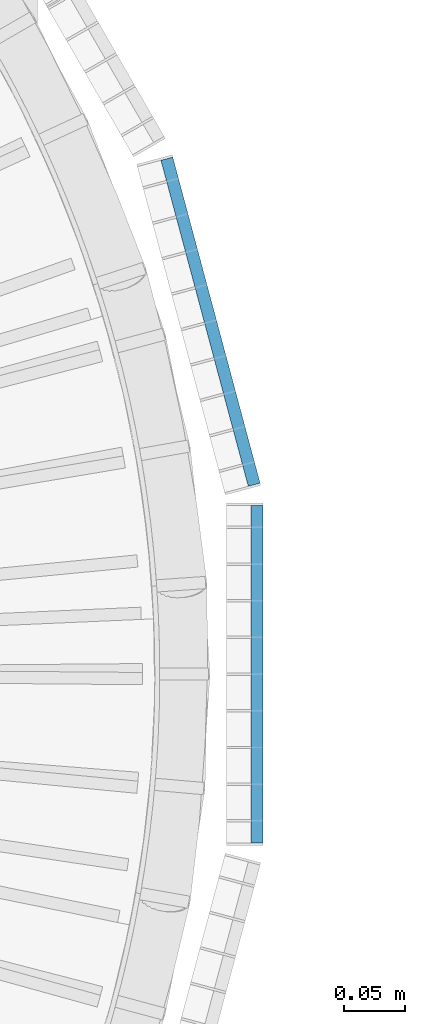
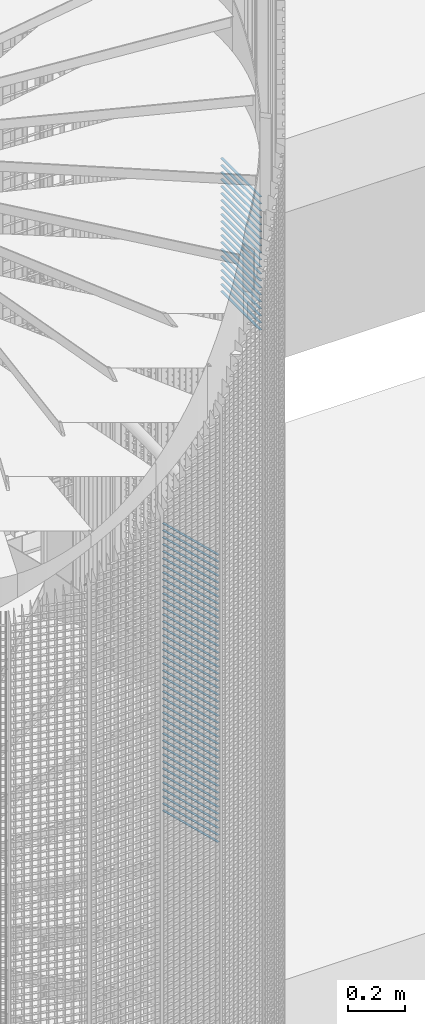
# One storey, part 277 of 1148: 62 beams, 2 elements without a shape of their own.
"""IFC2X3 building model written with IfcOpenShell, lengths in millimetres."""

from ifc_helpers import new_model, si_unit, frame, origin_with_axes, origin_2d_with_axis, place, context, subcontext, project, spatial, rectangle, extrude, material, type_object, element, aggregate, save


model = new_model("IFC2X3")

# Units and contexts
model_context = context("Model", 3, precision=1e-05, world=origin_with_axes())
body_context = subcontext(model_context, "Body", "Model", "MODEL_VIEW")
ifc_project = project(units=[si_unit("LENGTHUNIT", "METRE", prefix="MILLI"), si_unit("AREAUNIT", "SQUARE_METRE"), si_unit("VOLUMEUNIT", "CUBIC_METRE"), si_unit("MASSUNIT", "GRAM", prefix="KILO"), si_unit("TIMEUNIT", "SECOND"), si_unit("PLANEANGLEUNIT", "RADIAN"), si_unit("SOLIDANGLEUNIT", "STERADIAN"), si_unit("THERMODYNAMICTEMPERATUREUNIT", "DEGREE_CELSIUS"), si_unit("LUMINOUSINTENSITYUNIT", "LUMEN")], contexts=[model_context])

# Site, building, storey
site_placement = place(None, origin_with_axes())
site = spatial("IfcSite", under=ifc_project, at=site_placement, Name="Undefined", CompositionType="ELEMENT")
building_placement = place(site_placement, origin_with_axes())
building = spatial("IfcBuilding", under=site, at=building_placement, Name="Undefined", CompositionType="ELEMENT")
storey_placement = place(building_placement, origin_with_axes())
storey = spatial("IfcBuildingStorey", under=building, at=storey_placement, Name="Undefined", CompositionType="ELEMENT", Elevation=0.0)

# Assembly, beams
assembly_1_placement = place(storey_placement, origin_with_axes())
assembly_1 = element("IfcElementAssembly", 1, at=assembly_1_placement, inside=storey, Name="BORDURE", AssemblyPlace="NOTDEFINED", PredefinedType="NOTDEFINED")
ifc_material = material(Name="STEEL/S235JR")
beam_type = type_object("IfcBeamType", Name="PL2*10", PredefinedType="NOTDEFINED")
beam_1_placement = place(assembly_1_placement, frame((1111.25508286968, 154.895926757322, 10260.0), z_axis=(0.965925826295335, 0.258819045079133, 0.0), x_axis=(-0.258819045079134, 0.965925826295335, 0.0)))
beam_1 = element("IfcBeam", 2, at=beam_1_placement, type_object=beam_type, material=ifc_material, Name="ENTRETOISE", context=body_context, shape_type="SweptSolid", body=[
    extrude(rectangle(XDim=2.0, YDim=10.0, at=origin_2d_with_axis()), frame((275.999999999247, 9.09494701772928e-13, 1.53210777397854e-14), z_axis=(-1.0, 0.0, 0.0), x_axis=(0.0, -1.0, 0.0)), (0.0, 0.0, 1.0), 276.0),
])
beam_2_placement = place(assembly_1_placement, frame((1111.25508286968, 154.895926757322, 10230.0), z_axis=(0.965925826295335, 0.258819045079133, 0.0), x_axis=(-0.258819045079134, 0.965925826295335, 0.0)))
beam_2 = element("IfcBeam", 3, at=beam_2_placement, type_object=beam_type, material=ifc_material, Name="ENTRETOISE", context=body_context, shape_type="SweptSolid", body=[
    extrude(rectangle(XDim=2.0, YDim=10.0, at=origin_2d_with_axis()), frame((275.999999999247, 9.09494701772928e-13, 1.53210777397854e-14), z_axis=(-1.0, 0.0, 0.0), x_axis=(0.0, -1.0, 0.0)), (0.0, 0.0, 1.0), 276.0),
])
beam_3_placement = place(assembly_1_placement, frame((1111.25508286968, 154.895926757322, 10200.0), z_axis=(0.965925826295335, 0.258819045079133, 0.0), x_axis=(-0.258819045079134, 0.965925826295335, 0.0)))
beam_3 = element("IfcBeam", 4, at=beam_3_placement, type_object=beam_type, material=ifc_material, Name="ENTRETOISE", context=body_context, shape_type="SweptSolid", body=[
    extrude(rectangle(XDim=2.0, YDim=10.0, at=origin_2d_with_axis()), frame((275.999999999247, 9.09494701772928e-13, 1.53210777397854e-14), z_axis=(-1.0, 0.0, 0.0), x_axis=(0.0, -1.0, 0.0)), (0.0, 0.0, 1.0), 276.0),
])
beam_4_placement = place(assembly_1_placement, frame((1111.25508286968, 154.895926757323, 10170.0), z_axis=(0.965925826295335, 0.258819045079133, 0.0), x_axis=(-0.258819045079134, 0.965925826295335, 0.0)))
beam_4 = element("IfcBeam", 5, at=beam_4_placement, type_object=beam_type, material=ifc_material, Name="ENTRETOISE", context=body_context, shape_type="SweptSolid", body=[
    extrude(rectangle(XDim=2.0, YDim=10.0, at=origin_2d_with_axis()), frame((275.999999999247, 9.09494701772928e-13, 1.53210777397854e-14), z_axis=(-1.0, 0.0, 0.0), x_axis=(0.0, -1.0, 0.0)), (0.0, 0.0, 1.0), 276.0),
])
beam_5_placement = place(assembly_1_placement, frame((1111.25508286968, 154.895926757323, 10140.0), z_axis=(0.965925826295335, 0.258819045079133, 0.0), x_axis=(-0.258819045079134, 0.965925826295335, 0.0)))
beam_5 = element("IfcBeam", 6, at=beam_5_placement, type_object=beam_type, material=ifc_material, Name="ENTRETOISE", context=body_context, shape_type="SweptSolid", body=[
    extrude(rectangle(XDim=2.0, YDim=10.0, at=origin_2d_with_axis()), frame((275.999999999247, 9.09494701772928e-13, 1.53210777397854e-14), z_axis=(-1.0, 0.0, 0.0), x_axis=(0.0, -1.0, 0.0)), (0.0, 0.0, 1.0), 276.0),
])
beam_6_placement = place(assembly_1_placement, frame((1111.25508286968, 154.895926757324, 9720.0), z_axis=(0.965925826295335, 0.258819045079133, 0.0), x_axis=(-0.258819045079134, 0.965925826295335, 0.0)))
beam_6 = element("IfcBeam", 7, at=beam_6_placement, type_object=beam_type, material=ifc_material, Name="ENTRETOISE", context=body_context, shape_type="SweptSolid", body=[
    extrude(rectangle(XDim=2.0, YDim=10.0, at=origin_2d_with_axis()), frame((275.999999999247, 9.09494701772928e-13, 1.53210777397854e-14), z_axis=(-1.0, 0.0, 0.0), x_axis=(0.0, -1.0, 0.0)), (0.0, 0.0, 1.0), 276.0),
])
beam_7_placement = place(assembly_1_placement, frame((1111.25508286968, 154.895926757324, 9690.0), z_axis=(0.965925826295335, 0.258819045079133, 0.0), x_axis=(-0.258819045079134, 0.965925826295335, 0.0)))
beam_7 = element("IfcBeam", 8, at=beam_7_placement, type_object=beam_type, material=ifc_material, Name="ENTRETOISE", context=body_context, shape_type="SweptSolid", body=[
    extrude(rectangle(XDim=2.0, YDim=10.0, at=origin_2d_with_axis()), frame((275.999999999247, 9.09494701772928e-13, 1.53210777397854e-14), z_axis=(-1.0, 0.0, 0.0), x_axis=(0.0, -1.0, 0.0)), (0.0, 0.0, 1.0), 276.0),
])
beam_8_placement = place(assembly_1_placement, frame((1111.25508286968, 154.895926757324, 9750.0), z_axis=(0.965925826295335, 0.258819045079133, 0.0), x_axis=(-0.258819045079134, 0.965925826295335, 0.0)))
beam_8 = element("IfcBeam", 9, at=beam_8_placement, type_object=beam_type, material=ifc_material, Name="ENTRETOISE", context=body_context, shape_type="SweptSolid", body=[
    extrude(rectangle(XDim=2.0, YDim=10.0, at=origin_2d_with_axis()), frame((275.999999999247, 9.09494701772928e-13, 1.53210777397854e-14), z_axis=(-1.0, 0.0, 0.0), x_axis=(0.0, -1.0, 0.0)), (0.0, 0.0, 1.0), 276.0),
])
beam_9_placement = place(assembly_1_placement, frame((1111.25508286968, 154.895926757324, 9660.0), z_axis=(0.965925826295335, 0.258819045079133, 0.0), x_axis=(-0.258819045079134, 0.965925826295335, 0.0)))
beam_9 = element("IfcBeam", 10, at=beam_9_placement, type_object=beam_type, material=ifc_material, Name="ENTRETOISE", context=body_context, shape_type="SweptSolid", body=[
    extrude(rectangle(XDim=2.0, YDim=10.0, at=origin_2d_with_axis()), frame((275.999999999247, 9.09494701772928e-13, 1.53210777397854e-14), z_axis=(-1.0, 0.0, 0.0), x_axis=(0.0, -1.0, 0.0)), (0.0, 0.0, 1.0), 276.0),
])
beam_10_placement = place(assembly_1_placement, frame((1111.25508286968, 154.895926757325, 9630.0), z_axis=(0.965925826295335, 0.258819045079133, 0.0), x_axis=(-0.258819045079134, 0.965925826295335, 0.0)))
beam_10 = element("IfcBeam", 11, at=beam_10_placement, type_object=beam_type, material=ifc_material, Name="ENTRETOISE", context=body_context, shape_type="SweptSolid", body=[
    extrude(rectangle(XDim=2.0, YDim=10.0, at=origin_2d_with_axis()), frame((275.999999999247, 9.09494701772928e-13, 1.53210777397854e-14), z_axis=(-1.0, 0.0, 0.0), x_axis=(0.0, -1.0, 0.0)), (0.0, 0.0, 1.0), 276.0),
])
beam_11_placement = place(assembly_1_placement, frame((1111.25508286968, 154.895926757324, 9780.0), z_axis=(0.965925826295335, 0.258819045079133, 0.0), x_axis=(-0.258819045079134, 0.965925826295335, 0.0)))
beam_11 = element("IfcBeam", 12, at=beam_11_placement, type_object=beam_type, material=ifc_material, Name="ENTRETOISE", context=body_context, shape_type="SweptSolid", body=[
    extrude(rectangle(XDim=2.0, YDim=10.0, at=origin_2d_with_axis()), frame((275.999999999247, 9.09494701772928e-13, 1.53210777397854e-14), z_axis=(-1.0, 0.0, 0.0), x_axis=(0.0, -1.0, 0.0)), (0.0, 0.0, 1.0), 276.0),
])
beam_12_placement = place(assembly_1_placement, frame((1111.25508286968, 154.895926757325, 9600.0), z_axis=(0.965925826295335, 0.258819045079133, 0.0), x_axis=(-0.258819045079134, 0.965925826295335, 0.0)))
beam_12 = element("IfcBeam", 13, at=beam_12_placement, type_object=beam_type, material=ifc_material, Name="ENTRETOISE", context=body_context, shape_type="SweptSolid", body=[
    extrude(rectangle(XDim=2.0, YDim=10.0, at=origin_2d_with_axis()), frame((275.999999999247, 9.09494701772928e-13, 1.53210777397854e-14), z_axis=(-1.0, 0.0, 0.0), x_axis=(0.0, -1.0, 0.0)), (0.0, 0.0, 1.0), 276.0),
])
beam_13_placement = place(assembly_1_placement, frame((1111.25508286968, 154.895926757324, 9810.0), z_axis=(0.965925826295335, 0.258819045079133, 0.0), x_axis=(-0.258819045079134, 0.965925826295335, 0.0)))
beam_13 = element("IfcBeam", 14, at=beam_13_placement, type_object=beam_type, material=ifc_material, Name="ENTRETOISE", context=body_context, shape_type="SweptSolid", body=[
    extrude(rectangle(XDim=2.0, YDim=10.0, at=origin_2d_with_axis()), frame((275.999999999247, 9.09494701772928e-13, 1.53210777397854e-14), z_axis=(-1.0, 0.0, 0.0), x_axis=(0.0, -1.0, 0.0)), (0.0, 0.0, 1.0), 276.0),
])
beam_14_placement = place(assembly_1_placement, frame((1111.25508286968, 154.895926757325, 9570.0), z_axis=(0.965925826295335, 0.258819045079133, 0.0), x_axis=(-0.258819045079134, 0.965925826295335, 0.0)))
beam_14 = element("IfcBeam", 15, at=beam_14_placement, type_object=beam_type, material=ifc_material, Name="ENTRETOISE", context=body_context, shape_type="SweptSolid", body=[
    extrude(rectangle(XDim=2.0, YDim=10.0, at=origin_2d_with_axis()), frame((275.999999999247, 9.09494701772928e-13, 1.53210777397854e-14), z_axis=(-1.0, 0.0, 0.0), x_axis=(0.0, -1.0, 0.0)), (0.0, 0.0, 1.0), 276.0),
])
beam_15_placement = place(assembly_1_placement, frame((1111.25508286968, 154.895926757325, 9540.0), z_axis=(0.965925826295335, 0.258819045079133, 0.0), x_axis=(-0.258819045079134, 0.965925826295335, 0.0)))
beam_15 = element("IfcBeam", 16, at=beam_15_placement, type_object=beam_type, material=ifc_material, Name="ENTRETOISE", context=body_context, shape_type="SweptSolid", body=[
    extrude(rectangle(XDim=2.0, YDim=10.0, at=origin_2d_with_axis()), frame((275.999999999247, 9.09494701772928e-13, 1.53210777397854e-14), z_axis=(-1.0, 0.0, 0.0), x_axis=(0.0, -1.0, 0.0)), (0.0, 0.0, 1.0), 276.0),
])
beam_16_placement = place(assembly_1_placement, frame((1111.25508286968, 154.895926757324, 9840.0), z_axis=(0.965925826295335, 0.258819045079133, 0.0), x_axis=(-0.258819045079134, 0.965925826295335, 0.0)))
beam_16 = element("IfcBeam", 17, at=beam_16_placement, type_object=beam_type, material=ifc_material, Name="ENTRETOISE", context=body_context, shape_type="SweptSolid", body=[
    extrude(rectangle(XDim=2.0, YDim=10.0, at=origin_2d_with_axis()), frame((275.999999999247, 9.09494701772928e-13, 1.53210777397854e-14), z_axis=(-1.0, 0.0, 0.0), x_axis=(0.0, -1.0, 0.0)), (0.0, 0.0, 1.0), 276.0),
])
beam_17_placement = place(assembly_1_placement, frame((1111.25508286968, 154.895926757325, 9510.0), z_axis=(0.965925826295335, 0.258819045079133, 0.0), x_axis=(-0.258819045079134, 0.965925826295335, 0.0)))
beam_17 = element("IfcBeam", 18, at=beam_17_placement, type_object=beam_type, material=ifc_material, Name="ENTRETOISE", context=body_context, shape_type="SweptSolid", body=[
    extrude(rectangle(XDim=2.0, YDim=10.0, at=origin_2d_with_axis()), frame((275.999999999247, 9.09494701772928e-13, 1.53210777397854e-14), z_axis=(-1.0, 0.0, 0.0), x_axis=(0.0, -1.0, 0.0)), (0.0, 0.0, 1.0), 276.0),
])
beam_18_placement = place(assembly_1_placement, frame((1111.25508286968, 154.895926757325, 9480.0), z_axis=(0.965925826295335, 0.258819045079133, 0.0), x_axis=(-0.258819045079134, 0.965925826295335, 0.0)))
beam_18 = element("IfcBeam", 19, at=beam_18_placement, type_object=beam_type, material=ifc_material, Name="ENTRETOISE", context=body_context, shape_type="SweptSolid", body=[
    extrude(rectangle(XDim=2.0, YDim=10.0, at=origin_2d_with_axis()), frame((275.999999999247, 9.09494701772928e-13, 1.53210777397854e-14), z_axis=(-1.0, 0.0, 0.0), x_axis=(0.0, -1.0, 0.0)), (0.0, 0.0, 1.0), 276.0),
])
beam_19_placement = place(assembly_1_placement, frame((1111.25508286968, 154.895926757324, 9870.0), z_axis=(0.965925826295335, 0.258819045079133, 0.0), x_axis=(-0.258819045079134, 0.965925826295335, 0.0)))
beam_19 = element("IfcBeam", 20, at=beam_19_placement, type_object=beam_type, material=ifc_material, Name="ENTRETOISE", context=body_context, shape_type="SweptSolid", body=[
    extrude(rectangle(XDim=2.0, YDim=10.0, at=origin_2d_with_axis()), frame((275.999999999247, 9.09494701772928e-13, 1.53210777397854e-14), z_axis=(-1.0, 0.0, 0.0), x_axis=(0.0, -1.0, 0.0)), (0.0, 0.0, 1.0), 276.0),
])
beam_20_placement = place(assembly_1_placement, frame((1111.25508286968, 154.895926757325, 9450.0), z_axis=(0.965925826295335, 0.258819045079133, 0.0), x_axis=(-0.258819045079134, 0.965925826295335, 0.0)))
beam_20 = element("IfcBeam", 21, at=beam_20_placement, type_object=beam_type, material=ifc_material, Name="ENTRETOISE", context=body_context, shape_type="SweptSolid", body=[
    extrude(rectangle(XDim=2.0, YDim=10.0, at=origin_2d_with_axis()), frame((275.999999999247, 9.09494701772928e-13, 1.53210777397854e-14), z_axis=(-1.0, 0.0, 0.0), x_axis=(0.0, -1.0, 0.0)), (0.0, 0.0, 1.0), 276.0),
])
beam_21_placement = place(assembly_1_placement, frame((1111.25508286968, 154.895926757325, 9420.0), z_axis=(0.965925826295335, 0.258819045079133, 0.0), x_axis=(-0.258819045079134, 0.965925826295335, 0.0)))
beam_21 = element("IfcBeam", 22, at=beam_21_placement, type_object=beam_type, material=ifc_material, Name="ENTRETOISE", context=body_context, shape_type="SweptSolid", body=[
    extrude(rectangle(XDim=2.0, YDim=10.0, at=origin_2d_with_axis()), frame((275.999999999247, 9.09494701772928e-13, 1.53210777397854e-14), z_axis=(-1.0, 0.0, 0.0), x_axis=(0.0, -1.0, 0.0)), (0.0, 0.0, 1.0), 276.0),
])
beam_22_placement = place(assembly_1_placement, frame((1111.25508286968, 154.895926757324, 9900.0), z_axis=(0.965925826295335, 0.258819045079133, 0.0), x_axis=(-0.258819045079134, 0.965925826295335, 0.0)))
beam_22 = element("IfcBeam", 23, at=beam_22_placement, type_object=beam_type, material=ifc_material, Name="ENTRETOISE", context=body_context, shape_type="SweptSolid", body=[
    extrude(rectangle(XDim=2.0, YDim=10.0, at=origin_2d_with_axis()), frame((275.999999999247, 9.09494701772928e-13, 1.53210777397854e-14), z_axis=(-1.0, 0.0, 0.0), x_axis=(0.0, -1.0, 0.0)), (0.0, 0.0, 1.0), 276.0),
])
beam_23_placement = place(assembly_1_placement, frame((1111.25508286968, 154.895926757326, 9390.0), z_axis=(0.965925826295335, 0.258819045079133, 0.0), x_axis=(-0.258819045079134, 0.965925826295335, 0.0)))
beam_23 = element("IfcBeam", 24, at=beam_23_placement, type_object=beam_type, material=ifc_material, Name="ENTRETOISE", context=body_context, shape_type="SweptSolid", body=[
    extrude(rectangle(XDim=2.0, YDim=10.0, at=origin_2d_with_axis()), frame((275.999999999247, 9.09494701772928e-13, 1.53210777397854e-14), z_axis=(-1.0, 0.0, 0.0), x_axis=(0.0, -1.0, 0.0)), (0.0, 0.0, 1.0), 276.0),
])
beam_24_placement = place(assembly_1_placement, frame((1111.25508286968, 154.895926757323, 9930.0), z_axis=(0.965925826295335, 0.258819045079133, 0.0), x_axis=(-0.258819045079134, 0.965925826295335, 0.0)))
beam_24 = element("IfcBeam", 25, at=beam_24_placement, type_object=beam_type, material=ifc_material, Name="ENTRETOISE", context=body_context, shape_type="SweptSolid", body=[
    extrude(rectangle(XDim=2.0, YDim=10.0, at=origin_2d_with_axis()), frame((275.999999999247, 9.09494701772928e-13, 1.53210777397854e-14), z_axis=(-1.0, 0.0, 0.0), x_axis=(0.0, -1.0, 0.0)), (0.0, 0.0, 1.0), 276.0),
])
beam_25_placement = place(assembly_1_placement, frame((1111.25508286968, 154.895926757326, 9360.0), z_axis=(0.965925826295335, 0.258819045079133, 0.0), x_axis=(-0.258819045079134, 0.965925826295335, 0.0)))
beam_25 = element("IfcBeam", 26, at=beam_25_placement, type_object=beam_type, material=ifc_material, Name="ENTRETOISE", context=body_context, shape_type="SweptSolid", body=[
    extrude(rectangle(XDim=2.0, YDim=10.0, at=origin_2d_with_axis()), frame((275.999999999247, 9.09494701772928e-13, 1.53210777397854e-14), z_axis=(-1.0, 0.0, 0.0), x_axis=(0.0, -1.0, 0.0)), (0.0, 0.0, 1.0), 276.0),
])
beam_26_placement = place(assembly_1_placement, frame((1111.25508286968, 154.895926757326, 9330.0), z_axis=(0.965925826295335, 0.258819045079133, 0.0), x_axis=(-0.258819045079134, 0.965925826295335, 0.0)))
beam_26 = element("IfcBeam", 27, at=beam_26_placement, type_object=beam_type, material=ifc_material, Name="ENTRETOISE", context=body_context, shape_type="SweptSolid", body=[
    extrude(rectangle(XDim=2.0, YDim=10.0, at=origin_2d_with_axis()), frame((275.999999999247, 9.09494701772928e-13, 1.53210777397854e-14), z_axis=(-1.0, 0.0, 0.0), x_axis=(0.0, -1.0, 0.0)), (0.0, 0.0, 1.0), 276.0),
])
beam_27_placement = place(assembly_1_placement, frame((1111.25508286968, 154.895926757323, 9960.0), z_axis=(0.965925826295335, 0.258819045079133, 0.0), x_axis=(-0.258819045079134, 0.965925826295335, 0.0)))
beam_27 = element("IfcBeam", 28, at=beam_27_placement, type_object=beam_type, material=ifc_material, Name="ENTRETOISE", context=body_context, shape_type="SweptSolid", body=[
    extrude(rectangle(XDim=2.0, YDim=10.0, at=origin_2d_with_axis()), frame((275.999999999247, 9.09494701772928e-13, 1.53210777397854e-14), z_axis=(-1.0, 0.0, 0.0), x_axis=(0.0, -1.0, 0.0)), (0.0, 0.0, 1.0), 276.0),
])
beam_28_placement = place(assembly_1_placement, frame((1111.25508286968, 154.895926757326, 9300.0), z_axis=(0.965925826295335, 0.258819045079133, 0.0), x_axis=(-0.258819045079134, 0.965925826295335, 0.0)))
beam_28 = element("IfcBeam", 29, at=beam_28_placement, type_object=beam_type, material=ifc_material, Name="ENTRETOISE", context=body_context, shape_type="SweptSolid", body=[
    extrude(rectangle(XDim=2.0, YDim=10.0, at=origin_2d_with_axis()), frame((275.999999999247, 9.09494701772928e-13, 1.53210777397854e-14), z_axis=(-1.0, 0.0, 0.0), x_axis=(0.0, -1.0, 0.0)), (0.0, 0.0, 1.0), 276.0),
])
beam_29_placement = place(assembly_1_placement, frame((1111.25508286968, 154.895926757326, 9270.0), z_axis=(0.965925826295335, 0.258819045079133, 0.0), x_axis=(-0.258819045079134, 0.965925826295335, 0.0)))
beam_29 = element("IfcBeam", 30, at=beam_29_placement, type_object=beam_type, material=ifc_material, Name="ENTRETOISE", context=body_context, shape_type="SweptSolid", body=[
    extrude(rectangle(XDim=2.0, YDim=10.0, at=origin_2d_with_axis()), frame((275.999999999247, 9.09494701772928e-13, 1.53210777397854e-14), z_axis=(-1.0, 0.0, 0.0), x_axis=(0.0, -1.0, 0.0)), (0.0, 0.0, 1.0), 276.0),
])
beam_30_placement = place(assembly_1_placement, frame((1111.25508286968, 154.895926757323, 9990.0), z_axis=(0.965925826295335, 0.258819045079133, 0.0), x_axis=(-0.258819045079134, 0.965925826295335, 0.0)))
beam_30 = element("IfcBeam", 31, at=beam_30_placement, type_object=beam_type, material=ifc_material, Name="ENTRETOISE", context=body_context, shape_type="SweptSolid", body=[
    extrude(rectangle(XDim=2.0, YDim=10.0, at=origin_2d_with_axis()), frame((275.999999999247, 9.09494701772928e-13, 1.53210777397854e-14), z_axis=(-1.0, 0.0, 0.0), x_axis=(0.0, -1.0, 0.0)), (0.0, 0.0, 1.0), 276.0),
])
beam_31_placement = place(assembly_1_placement, frame((1111.25508286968, 154.895926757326, 9240.0), z_axis=(0.965925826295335, 0.258819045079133, 0.0), x_axis=(-0.258819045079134, 0.965925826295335, 0.0)))
beam_31 = element("IfcBeam", 32, at=beam_31_placement, type_object=beam_type, material=ifc_material, Name="ENTRETOISE", context=body_context, shape_type="SweptSolid", body=[
    extrude(rectangle(XDim=2.0, YDim=10.0, at=origin_2d_with_axis()), frame((275.999999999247, 9.09494701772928e-13, 1.53210777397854e-14), z_axis=(-1.0, 0.0, 0.0), x_axis=(0.0, -1.0, 0.0)), (0.0, 0.0, 1.0), 276.0),
])
beam_32_placement = place(assembly_1_placement, frame((1111.25508286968, 154.895926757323, 10020.0), z_axis=(0.965925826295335, 0.258819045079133, 0.0), x_axis=(-0.258819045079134, 0.965925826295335, 0.0)))
beam_32 = element("IfcBeam", 33, at=beam_32_placement, type_object=beam_type, material=ifc_material, Name="ENTRETOISE", context=body_context, shape_type="SweptSolid", body=[
    extrude(rectangle(XDim=2.0, YDim=10.0, at=origin_2d_with_axis()), frame((275.999999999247, 9.09494701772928e-13, 1.53210777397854e-14), z_axis=(-1.0, 0.0, 0.0), x_axis=(0.0, -1.0, 0.0)), (0.0, 0.0, 1.0), 276.0),
])
beam_33_placement = place(assembly_1_placement, frame((1111.25508286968, 154.895926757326, 9210.0), z_axis=(0.965925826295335, 0.258819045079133, 0.0), x_axis=(-0.258819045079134, 0.965925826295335, 0.0)))
beam_33 = element("IfcBeam", 34, at=beam_33_placement, type_object=beam_type, material=ifc_material, Name="ENTRETOISE", context=body_context, shape_type="SweptSolid", body=[
    extrude(rectangle(XDim=2.0, YDim=10.0, at=origin_2d_with_axis()), frame((275.999999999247, 9.09494701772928e-13, 1.53210777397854e-14), z_axis=(-1.0, 0.0, 0.0), x_axis=(0.0, -1.0, 0.0)), (0.0, 0.0, 1.0), 276.0),
])
beam_34_placement = place(assembly_1_placement, frame((1111.25508286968, 154.895926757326, 9180.0), z_axis=(0.965925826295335, 0.258819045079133, 0.0), x_axis=(-0.258819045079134, 0.965925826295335, 0.0)))
beam_34 = element("IfcBeam", 35, at=beam_34_placement, type_object=beam_type, material=ifc_material, Name="ENTRETOISE", context=body_context, shape_type="SweptSolid", body=[
    extrude(rectangle(XDim=2.0, YDim=10.0, at=origin_2d_with_axis()), frame((275.999999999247, 9.09494701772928e-13, 1.53210777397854e-14), z_axis=(-1.0, 0.0, 0.0), x_axis=(0.0, -1.0, 0.0)), (0.0, 0.0, 1.0), 276.0),
])
beam_35_placement = place(assembly_1_placement, frame((1111.25508286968, 154.895926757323, 10050.0), z_axis=(0.965925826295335, 0.258819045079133, 0.0), x_axis=(-0.258819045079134, 0.965925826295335, 0.0)))
beam_35 = element("IfcBeam", 36, at=beam_35_placement, type_object=beam_type, material=ifc_material, Name="ENTRETOISE", context=body_context, shape_type="SweptSolid", body=[
    extrude(rectangle(XDim=2.0, YDim=10.0, at=origin_2d_with_axis()), frame((275.999999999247, 9.09494701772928e-13, 1.53210777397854e-14), z_axis=(-1.0, 0.0, 0.0), x_axis=(0.0, -1.0, 0.0)), (0.0, 0.0, 1.0), 276.0),
])
beam_36_placement = place(assembly_1_placement, frame((1111.25508286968, 154.895926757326, 9150.0), z_axis=(0.965925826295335, 0.258819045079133, 0.0), x_axis=(-0.258819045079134, 0.965925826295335, 0.0)))
beam_36 = element("IfcBeam", 37, at=beam_36_placement, type_object=beam_type, material=ifc_material, Name="ENTRETOISE", context=body_context, shape_type="SweptSolid", body=[
    extrude(rectangle(XDim=2.0, YDim=10.0, at=origin_2d_with_axis()), frame((275.999999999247, 9.09494701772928e-13, 1.53210777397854e-14), z_axis=(-1.0, 0.0, 0.0), x_axis=(0.0, -1.0, 0.0)), (0.0, 0.0, 1.0), 276.0),
])
beam_37_placement = place(assembly_1_placement, frame((1111.25508286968, 154.895926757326, 9120.0), z_axis=(0.965925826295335, 0.258819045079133, 0.0), x_axis=(-0.258819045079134, 0.965925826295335, 0.0)))
beam_37 = element("IfcBeam", 38, at=beam_37_placement, type_object=beam_type, material=ifc_material, Name="ENTRETOISE", context=body_context, shape_type="SweptSolid", body=[
    extrude(rectangle(XDim=2.0, YDim=10.0, at=origin_2d_with_axis()), frame((275.999999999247, 9.09494701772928e-13, 1.53210777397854e-14), z_axis=(-1.0, 0.0, 0.0), x_axis=(0.0, -1.0, 0.0)), (0.0, 0.0, 1.0), 276.0),
])
beam_38_placement = place(assembly_1_placement, frame((1111.25508286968, 154.895926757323, 10080.0), z_axis=(0.965925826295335, 0.258819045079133, 0.0), x_axis=(-0.258819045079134, 0.965925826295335, 0.0)))
beam_38 = element("IfcBeam", 39, at=beam_38_placement, type_object=beam_type, material=ifc_material, Name="ENTRETOISE", context=body_context, shape_type="SweptSolid", body=[
    extrude(rectangle(XDim=2.0, YDim=10.0, at=origin_2d_with_axis()), frame((275.999999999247, 9.09494701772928e-13, 1.53210777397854e-14), z_axis=(-1.0, 0.0, 0.0), x_axis=(0.0, -1.0, 0.0)), (0.0, 0.0, 1.0), 276.0),
])
beam_39_placement = place(assembly_1_placement, frame((1111.25508286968, 154.895926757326, 9090.0), z_axis=(0.965925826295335, 0.258819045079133, 0.0), x_axis=(-0.258819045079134, 0.965925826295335, 0.0)))
beam_39 = element("IfcBeam", 40, at=beam_39_placement, type_object=beam_type, material=ifc_material, Name="ENTRETOISE", context=body_context, shape_type="SweptSolid", body=[
    extrude(rectangle(XDim=2.0, YDim=10.0, at=origin_2d_with_axis()), frame((275.999999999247, 9.09494701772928e-13, 1.53210777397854e-14), z_axis=(-1.0, 0.0, 0.0), x_axis=(0.0, -1.0, 0.0)), (0.0, 0.0, 1.0), 276.0),
])
beam_40_placement = place(assembly_1_placement, frame((1111.25508286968, 154.895926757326, 9060.0), z_axis=(0.965925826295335, 0.258819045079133, 0.0), x_axis=(-0.258819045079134, 0.965925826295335, 0.0)))
beam_40 = element("IfcBeam", 41, at=beam_40_placement, type_object=beam_type, material=ifc_material, Name="ENTRETOISE", context=body_context, shape_type="SweptSolid", body=[
    extrude(rectangle(XDim=2.0, YDim=10.0, at=origin_2d_with_axis()), frame((275.999999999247, 9.09494701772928e-13, 1.53210777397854e-14), z_axis=(-1.0, 0.0, 0.0), x_axis=(0.0, -1.0, 0.0)), (0.0, 0.0, 1.0), 276.0),
])
beam_41_placement = place(assembly_1_placement, frame((1111.25508286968, 154.895926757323, 10110.0), z_axis=(0.965925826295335, 0.258819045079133, 0.0), x_axis=(-0.258819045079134, 0.965925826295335, 0.0)))
beam_41 = element("IfcBeam", 42, at=beam_41_placement, type_object=beam_type, material=ifc_material, Name="ENTRETOISE", context=body_context, shape_type="SweptSolid", body=[
    extrude(rectangle(XDim=2.0, YDim=10.0, at=origin_2d_with_axis()), frame((275.999999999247, 9.09494701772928e-13, 1.53210777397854e-14), z_axis=(-1.0, 0.0, 0.0), x_axis=(0.0, -1.0, 0.0)), (0.0, 0.0, 1.0), 276.0),
])
beam_42_placement = place(assembly_1_placement, frame((1111.25508286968, 154.895926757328, 9030.0), z_axis=(0.965925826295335, 0.258819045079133, 0.0), x_axis=(-0.258819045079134, 0.965925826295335, 0.0)))
beam_42 = element("IfcBeam", 43, at=beam_42_placement, type_object=beam_type, material=ifc_material, Name="ENTRETOISE", context=body_context, shape_type="SweptSolid", body=[
    extrude(rectangle(XDim=2.0, YDim=10.0, at=origin_2d_with_axis()), frame((275.999999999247, 9.09494701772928e-13, 1.53210777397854e-14), z_axis=(-1.0, 0.0, 0.0), x_axis=(0.0, -1.0, 0.0)), (0.0, 0.0, 1.0), 276.0),
])
aggregate(assembly_1, [beam_1, beam_2, beam_3, beam_4, beam_5, beam_6, beam_7, beam_8, beam_9, beam_10, beam_11, beam_12, beam_13, beam_14, beam_15, beam_16, beam_17, beam_18, beam_19, beam_20, beam_21, beam_22, beam_23, beam_24, beam_25, beam_26, beam_27, beam_28, beam_29, beam_30, beam_31, beam_32, beam_33, beam_34, beam_35, beam_36, beam_37, beam_38, beam_39, beam_40, beam_41, beam_42])

assembly_2_placement = place(storey_placement, origin_with_axes())
assembly_2 = element("IfcElementAssembly", 44, at=assembly_2_placement, inside=storey, Name="BORDURE", AssemblyPlace="NOTDEFINED", PredefinedType="NOTDEFINED")
beam_43_placement = place(assembly_2_placement, frame((1113.47999999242, -137.996003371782, 11970.0), z_axis=(1.0, 0.0, 0.0), x_axis=(0.0, 1.0, 0.0)))
beam_43 = element("IfcBeam", 45, at=beam_43_placement, type_object=beam_type, material=ifc_material, Name="ENTRETOISE", context=body_context, shape_type="SweptSolid", body=[
    extrude(rectangle(XDim=2.0, YDim=10.0, at=origin_2d_with_axis()), frame((275.999999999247, 9.09494701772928e-13, 1.53210777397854e-14), z_axis=(-1.0, 0.0, 0.0), x_axis=(0.0, -1.0, 0.0)), (0.0, 0.0, 1.0), 276.0),
])
beam_44_placement = place(assembly_2_placement, frame((1113.47999999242, -137.996003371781, 11940.0), z_axis=(1.0, 0.0, 0.0), x_axis=(0.0, 1.0, 0.0)))
beam_44 = element("IfcBeam", 46, at=beam_44_placement, type_object=beam_type, material=ifc_material, Name="ENTRETOISE", context=body_context, shape_type="SweptSolid", body=[
    extrude(rectangle(XDim=2.0, YDim=10.0, at=origin_2d_with_axis()), frame((275.999999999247, 9.09494701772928e-13, 1.53210777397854e-14), z_axis=(-1.0, 0.0, 0.0), x_axis=(0.0, -1.0, 0.0)), (0.0, 0.0, 1.0), 276.0),
])
beam_45_placement = place(assembly_2_placement, frame((1113.47999999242, -137.996003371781, 11910.0), z_axis=(1.0, 0.0, 0.0), x_axis=(0.0, 1.0, 0.0)))
beam_45 = element("IfcBeam", 47, at=beam_45_placement, type_object=beam_type, material=ifc_material, Name="ENTRETOISE", context=body_context, shape_type="SweptSolid", body=[
    extrude(rectangle(XDim=2.0, YDim=10.0, at=origin_2d_with_axis()), frame((275.999999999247, 9.09494701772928e-13, 1.53210777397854e-14), z_axis=(-1.0, 0.0, 0.0), x_axis=(0.0, -1.0, 0.0)), (0.0, 0.0, 1.0), 276.0),
])
beam_46_placement = place(assembly_2_placement, frame((1113.47999999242, -137.996003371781, 11880.0), z_axis=(1.0, 0.0, 0.0), x_axis=(0.0, 1.0, 0.0)))
beam_46 = element("IfcBeam", 48, at=beam_46_placement, type_object=beam_type, material=ifc_material, Name="ENTRETOISE", context=body_context, shape_type="SweptSolid", body=[
    extrude(rectangle(XDim=2.0, YDim=10.0, at=origin_2d_with_axis()), frame((275.999999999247, 9.09494701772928e-13, 1.53210777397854e-14), z_axis=(-1.0, 0.0, 0.0), x_axis=(0.0, -1.0, 0.0)), (0.0, 0.0, 1.0), 276.0),
])
beam_47_placement = place(assembly_2_placement, frame((1113.47999999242, -137.996003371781, 11850.0), z_axis=(1.0, 0.0, 0.0), x_axis=(0.0, 1.0, 0.0)))
beam_47 = element("IfcBeam", 49, at=beam_47_placement, type_object=beam_type, material=ifc_material, Name="ENTRETOISE", context=body_context, shape_type="SweptSolid", body=[
    extrude(rectangle(XDim=2.0, YDim=10.0, at=origin_2d_with_axis()), frame((275.999999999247, 9.09494701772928e-13, 1.53210777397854e-14), z_axis=(-1.0, 0.0, 0.0), x_axis=(0.0, -1.0, 0.0)), (0.0, 0.0, 1.0), 276.0),
])
beam_48_placement = place(assembly_2_placement, frame((1113.47999999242, -137.996003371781, 11820.0), z_axis=(1.0, 0.0, 0.0), x_axis=(0.0, 1.0, 0.0)))
beam_48 = element("IfcBeam", 50, at=beam_48_placement, type_object=beam_type, material=ifc_material, Name="ENTRETOISE", context=body_context, shape_type="SweptSolid", body=[
    extrude(rectangle(XDim=2.0, YDim=10.0, at=origin_2d_with_axis()), frame((275.999999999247, 9.09494701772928e-13, 1.53210777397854e-14), z_axis=(-1.0, 0.0, 0.0), x_axis=(0.0, -1.0, 0.0)), (0.0, 0.0, 1.0), 276.0),
])
beam_49_placement = place(assembly_2_placement, frame((1113.47999999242, -137.996003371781, 11790.0), z_axis=(1.0, 0.0, 0.0), x_axis=(0.0, 1.0, 0.0)))
beam_49 = element("IfcBeam", 51, at=beam_49_placement, type_object=beam_type, material=ifc_material, Name="ENTRETOISE", context=body_context, shape_type="SweptSolid", body=[
    extrude(rectangle(XDim=2.0, YDim=10.0, at=origin_2d_with_axis()), frame((275.999999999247, 9.09494701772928e-13, 1.53210777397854e-14), z_axis=(-1.0, 0.0, 0.0), x_axis=(0.0, -1.0, 0.0)), (0.0, 0.0, 1.0), 276.0),
])
beam_50_placement = place(assembly_2_placement, frame((1113.47999999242, -137.996003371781, 11760.0), z_axis=(1.0, 0.0, 0.0), x_axis=(0.0, 1.0, 0.0)))
beam_50 = element("IfcBeam", 52, at=beam_50_placement, type_object=beam_type, material=ifc_material, Name="ENTRETOISE", context=body_context, shape_type="SweptSolid", body=[
    extrude(rectangle(XDim=2.0, YDim=10.0, at=origin_2d_with_axis()), frame((275.999999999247, 9.09494701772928e-13, 1.53210777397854e-14), z_axis=(-1.0, 0.0, 0.0), x_axis=(0.0, -1.0, 0.0)), (0.0, 0.0, 1.0), 276.0),
])
beam_51_placement = place(assembly_2_placement, frame((1113.47999999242, -137.996003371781, 11730.0), z_axis=(1.0, 0.0, 0.0), x_axis=(0.0, 1.0, 0.0)))
beam_51 = element("IfcBeam", 53, at=beam_51_placement, type_object=beam_type, material=ifc_material, Name="ENTRETOISE", context=body_context, shape_type="SweptSolid", body=[
    extrude(rectangle(XDim=2.0, YDim=10.0, at=origin_2d_with_axis()), frame((275.999999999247, 9.09494701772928e-13, 1.53210777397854e-14), z_axis=(-1.0, 0.0, 0.0), x_axis=(0.0, -1.0, 0.0)), (0.0, 0.0, 1.0), 276.0),
])
beam_52_placement = place(assembly_2_placement, frame((1113.47999999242, -137.996003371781, 11700.0), z_axis=(1.0, 0.0, 0.0), x_axis=(0.0, 1.0, 0.0)))
beam_52 = element("IfcBeam", 54, at=beam_52_placement, type_object=beam_type, material=ifc_material, Name="ENTRETOISE", context=body_context, shape_type="SweptSolid", body=[
    extrude(rectangle(XDim=2.0, YDim=10.0, at=origin_2d_with_axis()), frame((275.999999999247, 9.09494701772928e-13, 1.53210777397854e-14), z_axis=(-1.0, 0.0, 0.0), x_axis=(0.0, -1.0, 0.0)), (0.0, 0.0, 1.0), 276.0),
])
beam_53_placement = place(assembly_2_placement, frame((1113.47999999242, -137.996003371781, 11670.0), z_axis=(1.0, 0.0, 0.0), x_axis=(0.0, 1.0, 0.0)))
beam_53 = element("IfcBeam", 55, at=beam_53_placement, type_object=beam_type, material=ifc_material, Name="ENTRETOISE", context=body_context, shape_type="SweptSolid", body=[
    extrude(rectangle(XDim=2.0, YDim=10.0, at=origin_2d_with_axis()), frame((275.999999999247, 9.09494701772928e-13, 1.53210777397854e-14), z_axis=(-1.0, 0.0, 0.0), x_axis=(0.0, -1.0, 0.0)), (0.0, 0.0, 1.0), 276.0),
])
beam_54_placement = place(assembly_2_placement, frame((1113.47999999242, -137.99600337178, 11640.0), z_axis=(1.0, 0.0, 0.0), x_axis=(0.0, 1.0, 0.0)))
beam_54 = element("IfcBeam", 56, at=beam_54_placement, type_object=beam_type, material=ifc_material, Name="ENTRETOISE", context=body_context, shape_type="SweptSolid", body=[
    extrude(rectangle(XDim=2.0, YDim=10.0, at=origin_2d_with_axis()), frame((275.999999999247, 9.09494701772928e-13, 1.53210777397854e-14), z_axis=(-1.0, 0.0, 0.0), x_axis=(0.0, -1.0, 0.0)), (0.0, 0.0, 1.0), 276.0),
])
beam_55_placement = place(assembly_2_placement, frame((1113.47999999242, -137.99600337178, 11610.0), z_axis=(1.0, 0.0, 0.0), x_axis=(0.0, 1.0, 0.0)))
beam_55 = element("IfcBeam", 57, at=beam_55_placement, type_object=beam_type, material=ifc_material, Name="ENTRETOISE", context=body_context, shape_type="SweptSolid", body=[
    extrude(rectangle(XDim=2.0, YDim=10.0, at=origin_2d_with_axis()), frame((275.999999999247, 9.09494701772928e-13, 1.53210777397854e-14), z_axis=(-1.0, 0.0, 0.0), x_axis=(0.0, -1.0, 0.0)), (0.0, 0.0, 1.0), 276.0),
])
beam_56_placement = place(assembly_2_placement, frame((1113.47999999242, -137.99600337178, 11580.0), z_axis=(1.0, 0.0, 0.0), x_axis=(0.0, 1.0, 0.0)))
beam_56 = element("IfcBeam", 58, at=beam_56_placement, type_object=beam_type, material=ifc_material, Name="ENTRETOISE", context=body_context, shape_type="SweptSolid", body=[
    extrude(rectangle(XDim=2.0, YDim=10.0, at=origin_2d_with_axis()), frame((275.999999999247, 9.09494701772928e-13, 1.53210777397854e-14), z_axis=(-1.0, 0.0, 0.0), x_axis=(0.0, -1.0, 0.0)), (0.0, 0.0, 1.0), 276.0),
])
beam_57_placement = place(assembly_2_placement, frame((1113.47999999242, -137.99600337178, 11550.0), z_axis=(1.0, 0.0, 0.0), x_axis=(0.0, 1.0, 0.0)))
beam_57 = element("IfcBeam", 59, at=beam_57_placement, type_object=beam_type, material=ifc_material, Name="ENTRETOISE", context=body_context, shape_type="SweptSolid", body=[
    extrude(rectangle(XDim=2.0, YDim=10.0, at=origin_2d_with_axis()), frame((275.999999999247, 9.09494701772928e-13, 1.53210777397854e-14), z_axis=(-1.0, 0.0, 0.0), x_axis=(0.0, -1.0, 0.0)), (0.0, 0.0, 1.0), 276.0),
])
beam_58_placement = place(assembly_2_placement, frame((1113.47999999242, -137.99600337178, 11520.0), z_axis=(1.0, 0.0, 0.0), x_axis=(0.0, 1.0, 0.0)))
beam_58 = element("IfcBeam", 60, at=beam_58_placement, type_object=beam_type, material=ifc_material, Name="ENTRETOISE", context=body_context, shape_type="SweptSolid", body=[
    extrude(rectangle(XDim=2.0, YDim=10.0, at=origin_2d_with_axis()), frame((275.999999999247, 9.09494701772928e-13, 1.53210777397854e-14), z_axis=(-1.0, 0.0, 0.0), x_axis=(0.0, -1.0, 0.0)), (0.0, 0.0, 1.0), 276.0),
])
beam_59_placement = place(assembly_2_placement, frame((1113.47999999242, -137.99600337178, 11490.0), z_axis=(1.0, 0.0, 0.0), x_axis=(0.0, 1.0, 0.0)))
beam_59 = element("IfcBeam", 61, at=beam_59_placement, type_object=beam_type, material=ifc_material, Name="ENTRETOISE", context=body_context, shape_type="SweptSolid", body=[
    extrude(rectangle(XDim=2.0, YDim=10.0, at=origin_2d_with_axis()), frame((275.999999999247, 9.09494701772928e-13, 1.53210777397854e-14), z_axis=(-1.0, 0.0, 0.0), x_axis=(0.0, -1.0, 0.0)), (0.0, 0.0, 1.0), 276.0),
])
beam_60_placement = place(assembly_2_placement, frame((1113.47999999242, -137.99600337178, 11460.0), z_axis=(1.0, 0.0, 0.0), x_axis=(0.0, 1.0, 0.0)))
beam_60 = element("IfcBeam", 62, at=beam_60_placement, type_object=beam_type, material=ifc_material, Name="ENTRETOISE", context=body_context, shape_type="SweptSolid", body=[
    extrude(rectangle(XDim=2.0, YDim=10.0, at=origin_2d_with_axis()), frame((275.999999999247, 9.09494701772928e-13, 1.53210777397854e-14), z_axis=(-1.0, 0.0, 0.0), x_axis=(0.0, -1.0, 0.0)), (0.0, 0.0, 1.0), 276.0),
])
beam_61_placement = place(assembly_2_placement, frame((1113.47999999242, -137.99600337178, 11430.0), z_axis=(1.0, 0.0, 0.0), x_axis=(0.0, 1.0, 0.0)))
beam_61 = element("IfcBeam", 63, at=beam_61_placement, type_object=beam_type, material=ifc_material, Name="ENTRETOISE", context=body_context, shape_type="SweptSolid", body=[
    extrude(rectangle(XDim=2.0, YDim=10.0, at=origin_2d_with_axis()), frame((275.999999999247, 9.09494701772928e-13, 1.53210777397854e-14), z_axis=(-1.0, 0.0, 0.0), x_axis=(0.0, -1.0, 0.0)), (0.0, 0.0, 1.0), 276.0),
])
beam_62_placement = place(assembly_2_placement, frame((1113.47999999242, -137.996003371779, 11400.0), z_axis=(1.0, 0.0, 0.0), x_axis=(0.0, 1.0, 0.0)))
beam_62 = element("IfcBeam", 64, at=beam_62_placement, type_object=beam_type, material=ifc_material, Name="ENTRETOISE", context=body_context, shape_type="SweptSolid", body=[
    extrude(rectangle(XDim=2.0, YDim=10.0, at=origin_2d_with_axis()), frame((275.999999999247, 9.09494701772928e-13, 1.53210777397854e-14), z_axis=(-1.0, 0.0, 0.0), x_axis=(0.0, -1.0, 0.0)), (0.0, 0.0, 1.0), 276.0),
])
aggregate(assembly_2, [beam_43, beam_44, beam_45, beam_46, beam_47, beam_48, beam_49, beam_50, beam_51, beam_52, beam_53, beam_54, beam_55, beam_56, beam_57, beam_58, beam_59, beam_60, beam_61, beam_62])

save(model, "model.ifc")
